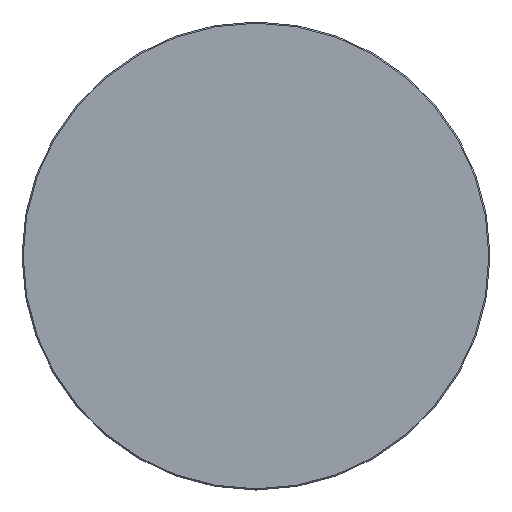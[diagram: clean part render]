
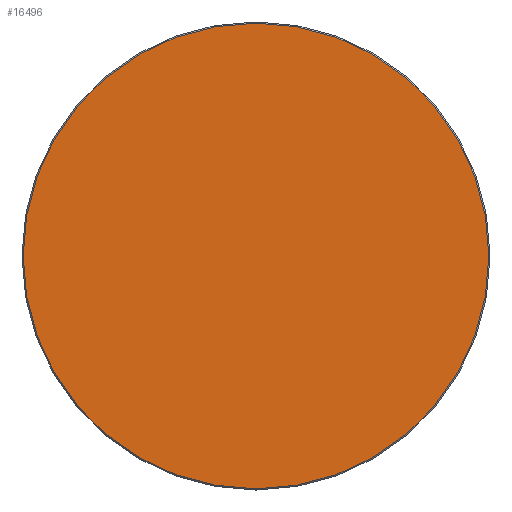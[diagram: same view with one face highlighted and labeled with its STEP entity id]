
A CAD part, top view. The second image highlights one B-rep face of the part: STEP entity #16496.
In plain terms, the highlighted planar face has unit normal (0, 0, 1).
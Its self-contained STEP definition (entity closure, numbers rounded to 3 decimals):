
#16421=CARTESIAN_POINT('',(0.,0.,20.));
#16422=DIRECTION('',(1.,0.,0.));
#16423=DIRECTION('',(0.,0.,1.));
#16424=AXIS2_PLACEMENT_3D('',#16421,#16423,#16422);
#16425=PLANE('',#16424);
#16426=CARTESIAN_POINT('',(-0.5,-298.5,20.));
#16427=VERTEX_POINT('',#16426);
#16428=CARTESIAN_POINT('',(0.5,-298.5,20.));
#16429=VERTEX_POINT('',#16428);
#16430=CARTESIAN_POINT('',(-0.5,-298.5,20.));
#16431=DIRECTION('',(1.,0.,0.));
#16432=VECTOR('',#16431,1.);
#16433=LINE('',#16430,#16432);
#16434=EDGE_CURVE('',#16427,#16429,#16433,.T.);
#16435=ORIENTED_EDGE('E105',*,*,#16434,.T.);
#16436=CARTESIAN_POINT('',(298.5,-0.5,20.));
#16437=VERTEX_POINT('',#16436);
#16438=CARTESIAN_POINT('',(0.5,-0.5,20.));
#16439=DIRECTION('',(0.,-1.,0.));
#16440=DIRECTION('',(0.,0.,1.));
#16441=AXIS2_PLACEMENT_3D('',#16438,#16440,#16439);
#16442=CIRCLE('',#16441,298.);
#16443=EDGE_CURVE('',#16429,#16437,#16442,.T.);
#16444=ORIENTED_EDGE('E107',*,*,#16443,.T.);
#16445=CARTESIAN_POINT('',(298.5,0.5,20.));
#16446=VERTEX_POINT('',#16445);
#16447=CARTESIAN_POINT('',(298.5,-0.5,20.));
#16448=DIRECTION('',(0.,1.,0.));
#16449=VECTOR('',#16448,1.);
#16450=LINE('',#16447,#16449);
#16451=EDGE_CURVE('',#16437,#16446,#16450,.T.);
#16452=ORIENTED_EDGE('E109',*,*,#16451,.T.);
#16453=CARTESIAN_POINT('',(0.5,298.5,20.));
#16454=VERTEX_POINT('',#16453);
#16455=CARTESIAN_POINT('',(0.5,0.5,20.));
#16456=DIRECTION('',(1.,0.,0.));
#16457=DIRECTION('',(0.,0.,1.));
#16458=AXIS2_PLACEMENT_3D('',#16455,#16457,#16456);
#16459=CIRCLE('',#16458,298.);
#16460=EDGE_CURVE('',#16446,#16454,#16459,.T.);
#16461=ORIENTED_EDGE('E111',*,*,#16460,.T.);
#16462=CARTESIAN_POINT('',(-0.5,298.5,20.));
#16463=VERTEX_POINT('',#16462);
#16464=CARTESIAN_POINT('',(0.5,298.5,20.));
#16465=DIRECTION('',(-1.,0.,0.));
#16466=VECTOR('',#16465,1.);
#16467=LINE('',#16464,#16466);
#16468=EDGE_CURVE('',#16454,#16463,#16467,.T.);
#16469=ORIENTED_EDGE('E113',*,*,#16468,.T.);
#16470=CARTESIAN_POINT('',(-298.5,0.5,20.));
#16471=VERTEX_POINT('',#16470);
#16472=CARTESIAN_POINT('',(-0.5,0.5,20.));
#16473=DIRECTION('',(0.,1.,0.));
#16474=DIRECTION('',(0.,0.,1.));
#16475=AXIS2_PLACEMENT_3D('',#16472,#16474,#16473);
#16476=CIRCLE('',#16475,298.);
#16477=EDGE_CURVE('',#16463,#16471,#16476,.T.);
#16478=ORIENTED_EDGE('E115',*,*,#16477,.T.);
#16479=CARTESIAN_POINT('',(-298.5,-0.5,20.));
#16480=VERTEX_POINT('',#16479);
#16481=CARTESIAN_POINT('',(-298.5,0.5,20.));
#16482=DIRECTION('',(0.,-1.,0.));
#16483=VECTOR('',#16482,1.);
#16484=LINE('',#16481,#16483);
#16485=EDGE_CURVE('',#16471,#16480,#16484,.T.);
#16486=ORIENTED_EDGE('E117',*,*,#16485,.T.);
#16487=CARTESIAN_POINT('',(-0.5,-0.5,20.));
#16488=DIRECTION('',(-1.,0.,0.));
#16489=DIRECTION('',(-0.,0.,1.));
#16490=AXIS2_PLACEMENT_3D('',#16487,#16489,#16488);
#16491=CIRCLE('',#16490,298.);
#16492=EDGE_CURVE('',#16480,#16427,#16491,.T.);
#16493=ORIENTED_EDGE('E119',*,*,#16492,.T.);
#16494=EDGE_LOOP('',(#16435,#16444,#16452,#16461,#16469,#16478,#16486,#16493));
#16495=FACE_OUTER_BOUND('',#16494,.T.);
#16496=ADVANCED_FACE('F2',(#16495),#16425,.T.);
